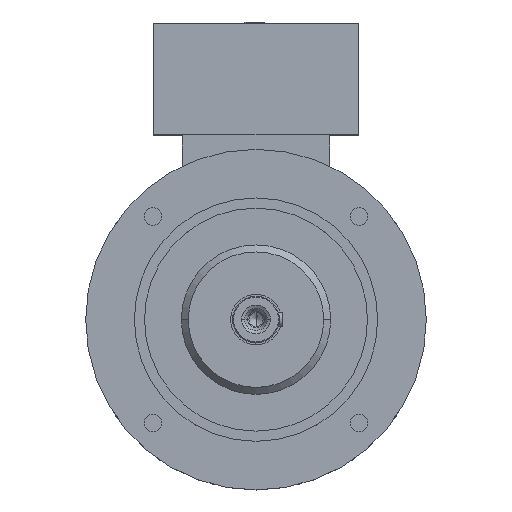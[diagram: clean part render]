
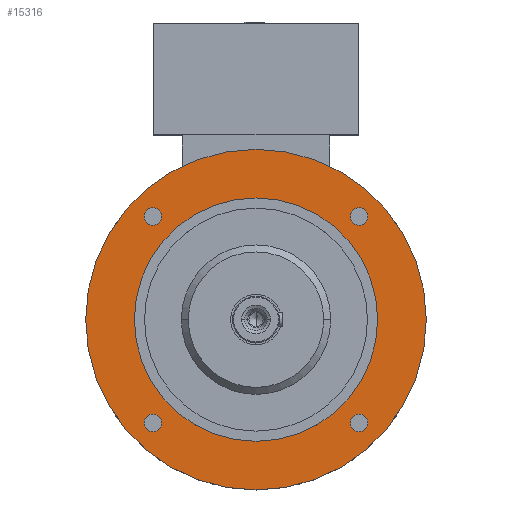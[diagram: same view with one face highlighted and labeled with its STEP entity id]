
A CAD part, top view. The second image highlights one B-rep face of the part: STEP entity #15316.
In plain terms, the highlighted planar face has unit normal (0, 0, 1).
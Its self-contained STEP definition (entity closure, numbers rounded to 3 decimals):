
#67 = AXIS2_PLACEMENT_3D ( 'NONE', #19809, #8842, #4907 ) ;
#147 = DIRECTION ( 'NONE',  ( 0., 0., -1. ) ) ;
#169 = DIRECTION ( 'NONE',  ( 0., 0., 1. ) ) ;
#187 = CARTESIAN_POINT ( 'NONE',  ( 106.066, 106.066, 260.5 ) ) ;
#254 = AXIS2_PLACEMENT_3D ( 'NONE', #19383, #13956, #3034 ) ;
#315 = AXIS2_PLACEMENT_3D ( 'NONE', #187, #13277, #7843 ) ;
#713 = DIRECTION ( 'NONE',  ( 0., 0., -1. ) ) ;
#1434 = FACE_BOUND ( 'NONE', #22713, .T. ) ;
#1691 = DIRECTION ( 'NONE',  ( -1., 0., 0. ) ) ;
#1808 = CIRCLE ( 'NONE', #18571, 9. ) ;
#1962 = EDGE_CURVE ( 'NONE', #19808, #4145, #8534, .T. ) ;
#2104 = DIRECTION ( 'NONE',  ( -1., 0., 0. ) ) ;
#2569 = EDGE_CURVE ( 'NONE', #23438, #7337, #1808, .T. ) ;
#2576 = FACE_BOUND ( 'NONE', #22388, .T. ) ;
#2778 = AXIS2_PLACEMENT_3D ( 'NONE', #12962, #3886, #5538 ) ;
#3034 = DIRECTION ( 'NONE',  ( 1., 0., 0. ) ) ;
#3064 = VERTEX_POINT ( 'NONE', #3189 ) ;
#3189 = CARTESIAN_POINT ( 'NONE',  ( 115.066, -106.066, 260.5 ) ) ;
#3391 = ORIENTED_EDGE ( 'NONE', *, *, #1962, .T. ) ;
#3594 = AXIS2_PLACEMENT_3D ( 'NONE', #4643, #713, #6450 ) ;
#3885 = EDGE_LOOP ( 'NONE', ( #5362, #3391 ) ) ;
#3886 = DIRECTION ( 'NONE',  ( 0., 0., -1. ) ) ;
#4145 = VERTEX_POINT ( 'NONE', #22292 ) ;
#4643 = CARTESIAN_POINT ( 'NONE',  ( -106.066, 106.066, 260.5 ) ) ;
#4907 = DIRECTION ( 'NONE',  ( -1., 0., 0. ) ) ;
#4921 = VERTEX_POINT ( 'NONE', #12340 ) ;
#5204 = ORIENTED_EDGE ( 'NONE', *, *, #21949, .T. ) ;
#5234 = VERTEX_POINT ( 'NONE', #14955 ) ;
#5362 = ORIENTED_EDGE ( 'NONE', *, *, #21484, .T. ) ;
#5538 = DIRECTION ( 'NONE',  ( -1., 0., 0. ) ) ;
#5570 = CARTESIAN_POINT ( 'NONE',  ( 97.066, -106.066, 260.5 ) ) ;
#5820 = AXIS2_PLACEMENT_3D ( 'NONE', #8948, #6898, #14394 ) ;
#6181 = CARTESIAN_POINT ( 'NONE',  ( 175., 0., 260.5 ) ) ;
#6450 = DIRECTION ( 'NONE',  ( 1., 0., 0. ) ) ;
#6705 = CARTESIAN_POINT ( 'NONE',  ( 106.066, -106.066, 260.5 ) ) ;
#6892 = CIRCLE ( 'NONE', #315, 9. ) ;
#6897 = AXIS2_PLACEMENT_3D ( 'NONE', #19955, #21543, #6932 ) ;
#6898 = DIRECTION ( 'NONE',  ( 0., 0., -1. ) ) ;
#6932 = DIRECTION ( 'NONE',  ( 1., 0., 0. ) ) ;
#7020 = DIRECTION ( 'NONE',  ( 0., 0., 1. ) ) ;
#7170 = CIRCLE ( 'NONE', #2778, 125. ) ;
#7337 = VERTEX_POINT ( 'NONE', #15842 ) ;
#7345 = CARTESIAN_POINT ( 'NONE',  ( -97.066, 106.066, 260.5 ) ) ;
#7677 = CIRCLE ( 'NONE', #19952, 175. ) ;
#7843 = DIRECTION ( 'NONE',  ( 1., 0., 0. ) ) ;
#7854 = EDGE_CURVE ( 'NONE', #20816, #3064, #15557, .T. ) ;
#8017 = CIRCLE ( 'NONE', #9791, 175. ) ;
#8098 = VERTEX_POINT ( 'NONE', #7345 ) ;
#8534 = CIRCLE ( 'NONE', #67, 125. ) ;
#8842 = DIRECTION ( 'NONE',  ( 0., 0., -1. ) ) ;
#8948 = CARTESIAN_POINT ( 'NONE',  ( 106.066, -106.066, 260.5 ) ) ;
#9141 = CARTESIAN_POINT ( 'NONE',  ( 106.066, 106.066, 260.5 ) ) ;
#9327 = ORIENTED_EDGE ( 'NONE', *, *, #14040, .T. ) ;
#9382 = CARTESIAN_POINT ( 'NONE',  ( -97.066, -106.066, 260.5 ) ) ;
#9394 = CARTESIAN_POINT ( 'NONE',  ( -106.066, 106.066, 260.5 ) ) ;
#9791 = AXIS2_PLACEMENT_3D ( 'NONE', #10610, #7020, #1691 ) ;
#10610 = CARTESIAN_POINT ( 'NONE',  ( 0., 0., 260.5 ) ) ;
#10704 = CARTESIAN_POINT ( 'NONE',  ( 125., 0., 260.5 ) ) ;
#11187 = AXIS2_PLACEMENT_3D ( 'NONE', #9394, #16437, #22177 ) ;
#11636 = CIRCLE ( 'NONE', #254, 9. ) ;
#11796 = ORIENTED_EDGE ( 'NONE', *, *, #2569, .T. ) ;
#12206 = AXIS2_PLACEMENT_3D ( 'NONE', #22301, #12824, #21987 ) ;
#12218 = DIRECTION ( 'NONE',  ( 1., 0., 0. ) ) ;
#12340 = CARTESIAN_POINT ( 'NONE',  ( -115.066, -106.066, 260.5 ) ) ;
#12824 = DIRECTION ( 'NONE',  ( 0., 0., -1. ) ) ;
#12962 = CARTESIAN_POINT ( 'NONE',  ( 0., 0., 260.5 ) ) ;
#13034 = CARTESIAN_POINT ( 'NONE',  ( 0., 0., 260.5 ) ) ;
#13277 = DIRECTION ( 'NONE',  ( 0., 0., -1. ) ) ;
#13673 = VERTEX_POINT ( 'NONE', #9382 ) ;
#13956 = DIRECTION ( 'NONE',  ( 0., 0., -1. ) ) ;
#14004 = CIRCLE ( 'NONE', #11187, 9. ) ;
#14040 = EDGE_CURVE ( 'NONE', #3064, #20816, #17494, .T. ) ;
#14284 = ORIENTED_EDGE ( 'NONE', *, *, #7854, .T. ) ;
#14364 = ORIENTED_EDGE ( 'NONE', *, *, #23140, .T. ) ;
#14394 = DIRECTION ( 'NONE',  ( 1., 0., 0. ) ) ;
#14836 = CARTESIAN_POINT ( 'NONE',  ( -175., 0., 260.5 ) ) ;
#14955 = CARTESIAN_POINT ( 'NONE',  ( -115.066, 106.066, 260.5 ) ) ;
#15269 = CIRCLE ( 'NONE', #12206, 9. ) ;
#15316 = ADVANCED_FACE ( 'NONE', ( #20001, #16562, #2576, #20578, #19425, #1434 ), #17871, .T. ) ;
#15422 = ORIENTED_EDGE ( 'NONE', *, *, #22049, .T. ) ;
#15557 = CIRCLE ( 'NONE', #16341, 9. ) ;
#15842 = CARTESIAN_POINT ( 'NONE',  ( 115.066, 106.066, 260.5 ) ) ;
#15979 = EDGE_LOOP ( 'NONE', ( #21489, #5204 ) ) ;
#16341 = AXIS2_PLACEMENT_3D ( 'NONE', #6705, #23134, #12218 ) ;
#16437 = DIRECTION ( 'NONE',  ( 0., 0., -1. ) ) ;
#16466 = CARTESIAN_POINT ( 'NONE',  ( 97.066, 106.066, 260.5 ) ) ;
#16517 = DIRECTION ( 'NONE',  ( 1., 0., 0. ) ) ;
#16562 = FACE_BOUND ( 'NONE', #3885, .T. ) ;
#16581 = EDGE_CURVE ( 'NONE', #22021, #19451, #7677, .T. ) ;
#16607 = ORIENTED_EDGE ( 'NONE', *, *, #19373, .T. ) ;
#17110 = EDGE_LOOP ( 'NONE', ( #19906, #11796 ) ) ;
#17397 = EDGE_CURVE ( 'NONE', #4921, #13673, #11636, .T. ) ;
#17494 = CIRCLE ( 'NONE', #5820, 9. ) ;
#17871 = PLANE ( 'NONE',  #6897 ) ;
#18571 = AXIS2_PLACEMENT_3D ( 'NONE', #9141, #147, #16517 ) ;
#19373 = EDGE_CURVE ( 'NONE', #13673, #4921, #15269, .T. ) ;
#19383 = CARTESIAN_POINT ( 'NONE',  ( -106.066, -106.066, 260.5 ) ) ;
#19425 = FACE_BOUND ( 'NONE', #23180, .T. ) ;
#19437 = ORIENTED_EDGE ( 'NONE', *, *, #17397, .T. ) ;
#19451 = VERTEX_POINT ( 'NONE', #6181 ) ;
#19808 = VERTEX_POINT ( 'NONE', #10704 ) ;
#19809 = CARTESIAN_POINT ( 'NONE',  ( 0., 0., 260.5 ) ) ;
#19906 = ORIENTED_EDGE ( 'NONE', *, *, #21513, .T. ) ;
#19952 = AXIS2_PLACEMENT_3D ( 'NONE', #13034, #169, #2104 ) ;
#19955 = CARTESIAN_POINT ( 'NONE',  ( 0., 175., 260.5 ) ) ;
#20001 = FACE_OUTER_BOUND ( 'NONE', #15979, .T. ) ;
#20578 = FACE_BOUND ( 'NONE', #17110, .T. ) ;
#20747 = CIRCLE ( 'NONE', #3594, 9. ) ;
#20816 = VERTEX_POINT ( 'NONE', #5570 ) ;
#21484 = EDGE_CURVE ( 'NONE', #4145, #19808, #7170, .T. ) ;
#21489 = ORIENTED_EDGE ( 'NONE', *, *, #16581, .T. ) ;
#21513 = EDGE_CURVE ( 'NONE', #7337, #23438, #6892, .T. ) ;
#21543 = DIRECTION ( 'NONE',  ( 0., 0., 1. ) ) ;
#21949 = EDGE_CURVE ( 'NONE', #19451, #22021, #8017, .T. ) ;
#21987 = DIRECTION ( 'NONE',  ( 1., 0., 0. ) ) ;
#22021 = VERTEX_POINT ( 'NONE', #14836 ) ;
#22049 = EDGE_CURVE ( 'NONE', #5234, #8098, #14004, .T. ) ;
#22177 = DIRECTION ( 'NONE',  ( 1., 0., 0. ) ) ;
#22292 = CARTESIAN_POINT ( 'NONE',  ( -125., 0., 260.5 ) ) ;
#22301 = CARTESIAN_POINT ( 'NONE',  ( -106.066, -106.066, 260.5 ) ) ;
#22388 = EDGE_LOOP ( 'NONE', ( #9327, #14284 ) ) ;
#22713 = EDGE_LOOP ( 'NONE', ( #16607, #19437 ) ) ;
#23134 = DIRECTION ( 'NONE',  ( 0., 0., -1. ) ) ;
#23140 = EDGE_CURVE ( 'NONE', #8098, #5234, #20747, .T. ) ;
#23180 = EDGE_LOOP ( 'NONE', ( #14364, #15422 ) ) ;
#23438 = VERTEX_POINT ( 'NONE', #16466 ) ;
